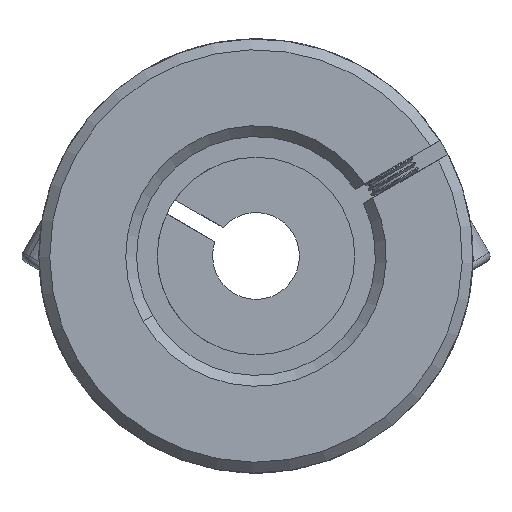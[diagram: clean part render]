
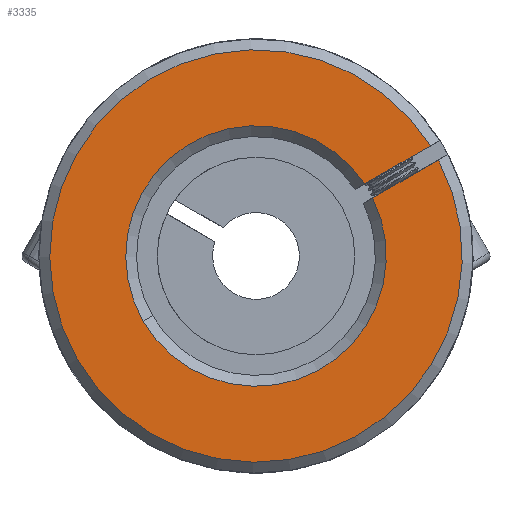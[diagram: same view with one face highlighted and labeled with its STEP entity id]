
A CAD part, front view. The second image highlights one B-rep face of the part: STEP entity #3335.
In plain terms, the highlighted planar face has unit normal (0, -1, 0).
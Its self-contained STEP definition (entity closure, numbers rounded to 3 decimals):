
#118 = CARTESIAN_POINT ( 'NONE',  ( 8.548, -31.239, 46.641 ) ) ;
#143 = AXIS2_PLACEMENT_3D ( 'NONE', #4318, #2062, #9502 ) ;
#522 = ORIENTED_EDGE ( 'NONE', *, *, #8336, .F. ) ;
#579 = ORIENTED_EDGE ( 'NONE', *, *, #6525, .F. ) ;
#941 = DIRECTION ( 'NONE',  ( 0.5, 0., -0.866 ) ) ;
#1471 = LINE ( 'NONE', #9801, #6750 ) ;
#1504 = ORIENTED_EDGE ( 'NONE', *, *, #13676, .T. ) ;
#1566 = CIRCLE ( 'NONE', #13551, 12. ) ;
#1722 = VERTEX_POINT ( 'NONE', #118 ) ;
#1910 = DIRECTION ( 'NONE',  ( 0.866, 0., 0.5 ) ) ;
#1975 = DIRECTION ( 'NONE',  ( 0.5, 0., -0.866 ) ) ;
#2062 = DIRECTION ( 'NONE',  ( 0., 1., 0. ) ) ;
#2393 = AXIS2_PLACEMENT_3D ( 'NONE', #7980, #5848, #10203 ) ;
#2961 = CARTESIAN_POINT ( 'NONE',  ( 8.431, -31.239, 44.841 ) ) ;
#2985 = CARTESIAN_POINT ( 'NONE',  ( -11.837, -31.239, 33.997 ) ) ;
#3335 = ADVANCED_FACE ( 'NONE', ( #12846 ), #5986, .F. ) ;
#3395 = DIRECTION ( 'NONE',  ( -0.866, 0., -0.5 ) ) ;
#3746 = CIRCLE ( 'NONE', #143, 12. ) ;
#3934 = VERTEX_POINT ( 'NONE', #10175 ) ;
#4318 = CARTESIAN_POINT ( 'NONE',  ( -1.447, -31.239, 40. ) ) ;
#5301 = VERTEX_POINT ( 'NONE', #8326 ) ;
#5747 = ORIENTED_EDGE ( 'NONE', *, *, #12872, .T. ) ;
#5848 = DIRECTION ( 'NONE',  ( 0., 1., 0. ) ) ;
#5986 = PLANE ( 'NONE',  #2393 ) ;
#6525 = EDGE_CURVE ( 'NONE', #13852, #3934, #12431, .T. ) ;
#6750 = VECTOR ( 'NONE', #3395, 1000. ) ;
#7980 = CARTESIAN_POINT ( 'NONE',  ( 52.98, -31.239, 45.743 ) ) ;
#8326 = CARTESIAN_POINT ( 'NONE',  ( 14.616, -31.239, 50.147 ) ) ;
#8336 = EDGE_CURVE ( 'NONE', #5301, #1722, #1471, .T. ) ;
#8400 = ORIENTED_EDGE ( 'NONE', *, *, #11789, .T. ) ;
#8475 = DIRECTION ( 'NONE',  ( 0., -1., 0. ) ) ;
#8774 = VECTOR ( 'NONE', #1910, 1000. ) ;
#9502 = DIRECTION ( 'NONE',  ( 0.5, 0., -0.866 ) ) ;
#9553 = DIRECTION ( 'NONE',  ( 0., 1., 0. ) ) ;
#9801 = CARTESIAN_POINT ( 'NONE',  ( 7.68, -31.239, 46.14 ) ) ;
#10175 = CARTESIAN_POINT ( 'NONE',  ( 15.367, -31.239, 48.848 ) ) ;
#10203 = DIRECTION ( 'NONE',  ( 0.5, 0., -0.866 ) ) ;
#10716 = VERTEX_POINT ( 'NONE', #2985 ) ;
#10852 = CARTESIAN_POINT ( 'NONE',  ( 9.298, -31.239, 45.342 ) ) ;
#11727 = EDGE_LOOP ( 'NONE', ( #579, #8400, #1504, #522, #5747 ) ) ;
#11789 = EDGE_CURVE ( 'NONE', #13852, #10716, #1566, .T. ) ;
#11813 = CARTESIAN_POINT ( 'NONE',  ( -1.447, -31.239, 40. ) ) ;
#11971 = CIRCLE ( 'NONE', #12945, 19. ) ;
#12431 = LINE ( 'NONE', #2961, #8774 ) ;
#12737 = CARTESIAN_POINT ( 'NONE',  ( -1.447, -31.239, 40. ) ) ;
#12846 = FACE_OUTER_BOUND ( 'NONE', #11727, .T. ) ;
#12872 = EDGE_CURVE ( 'NONE', #5301, #3934, #11971, .T. ) ;
#12945 = AXIS2_PLACEMENT_3D ( 'NONE', #11813, #8475, #941 ) ;
#13551 = AXIS2_PLACEMENT_3D ( 'NONE', #12737, #9553, #1975 ) ;
#13676 = EDGE_CURVE ( 'NONE', #10716, #1722, #3746, .T. ) ;
#13852 = VERTEX_POINT ( 'NONE', #10852 ) ;
